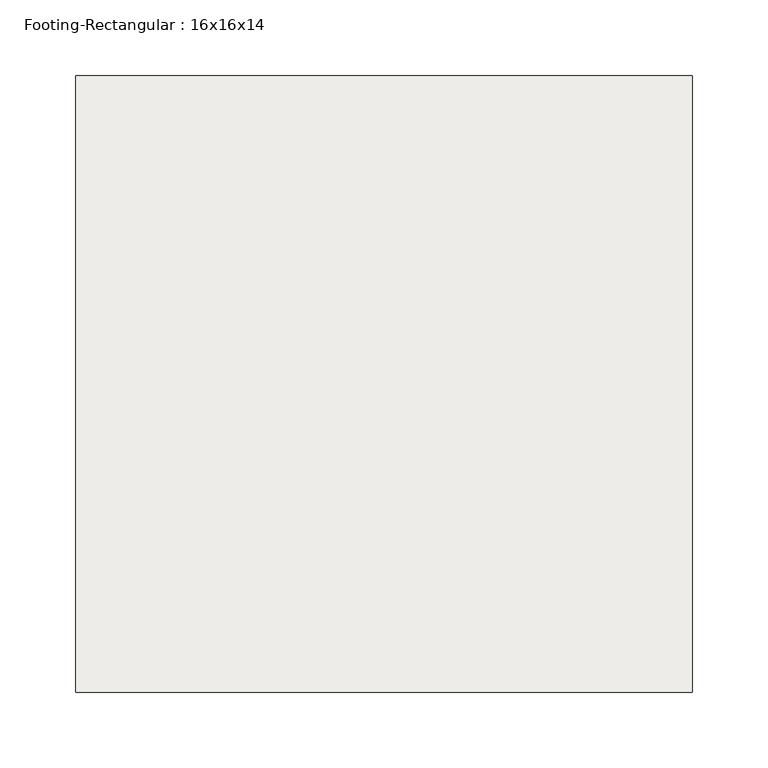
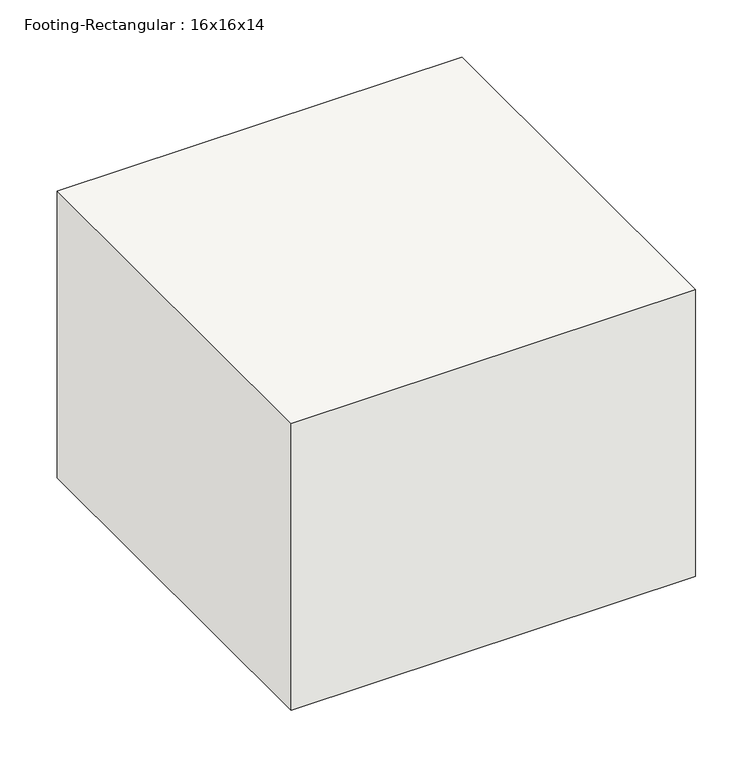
"""IFC4 building model written with IfcOpenShell, lengths in millimetres: slab geometry, Footing-Rectangular : 16x16x14."""

from ifc_helpers import new_model, si_unit, frame, origin, place, context, project, spatial, polyline, outline, extrude, source, transform, mapped, element, save


def footing_rectangular_16x16x14_b055683a(model_context):
    return source(origin(), model_context, "Body", "SweptSolid", [
        extrude(outline(polyline([(203.2, -203.2), (-203.2, -203.2), (-203.2, 203.2), (203.2, 203.2), (203.2, -203.2)])), frame((0.0, 0.0, -304.8), z_axis=(0.0, 0.0, 1.0), x_axis=(1.0, 0.0, 0.0)), (0.0, 0.0, 1.0), 304.8),
    ])


if __name__ == "__main__":
    model = new_model("IFC4")
    model_context = context("Model", 3, world=origin())
    ifc_project = project(units=[si_unit("LENGTHUNIT", "METRE", prefix="MILLI")], contexts=[model_context])
    site = spatial("IfcSite", under=ifc_project)
    building = spatial("IfcBuilding", under=site)
    placement = place(None, origin())
    footing_rectangular_16x16x14_shape = footing_rectangular_16x16x14_b055683a(model_context)
    element("IfcSlab", 1, ObjectType="Footing-Rectangular : 16x16x14", at=placement, inside=building, context=model_context, shape_type="MappedRepresentation", body=[
        mapped(footing_rectangular_16x16x14_shape, transform((0.0, 0.0, 0.0), x_axis=(1.0, 0.0, 0.0), y_axis=(0.0, 1.0, 0.0), z_axis=(0.0, 0.0, 1.0))),
    ])
    save(model, "model.ifc")
